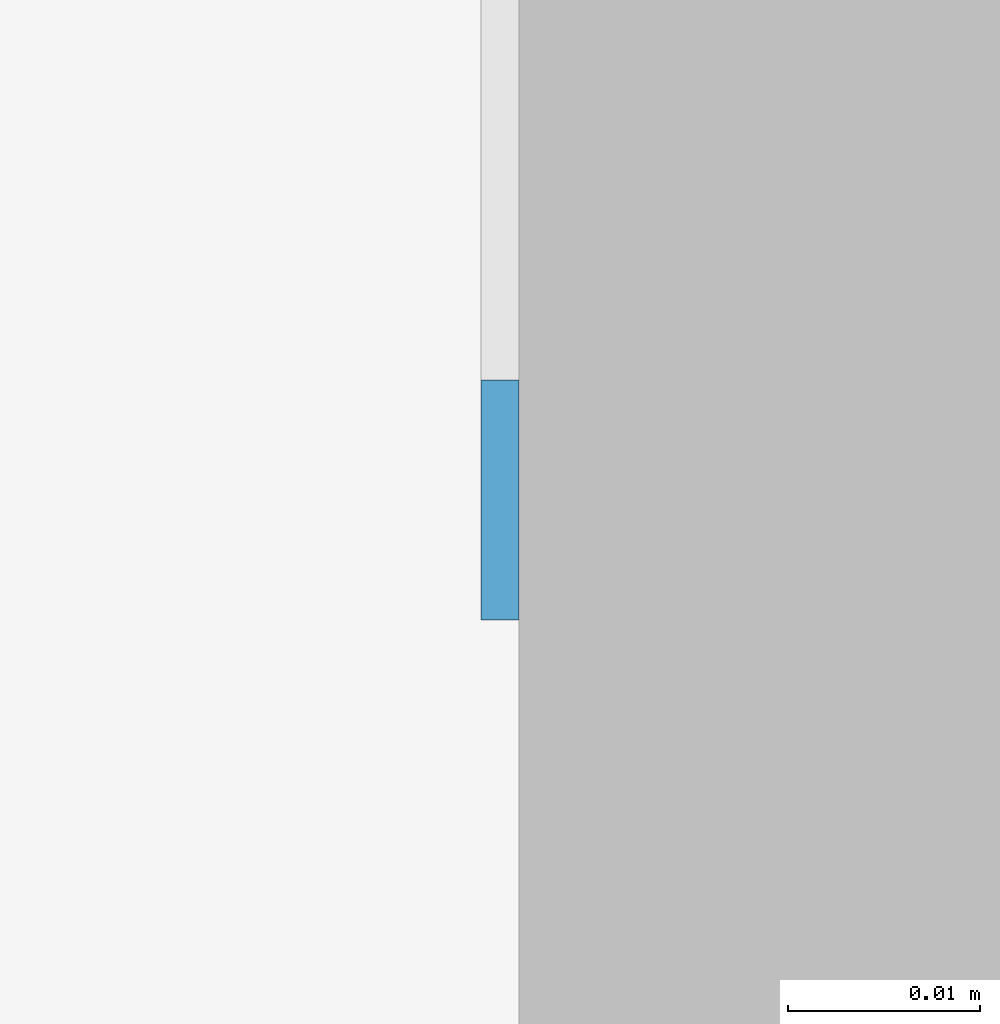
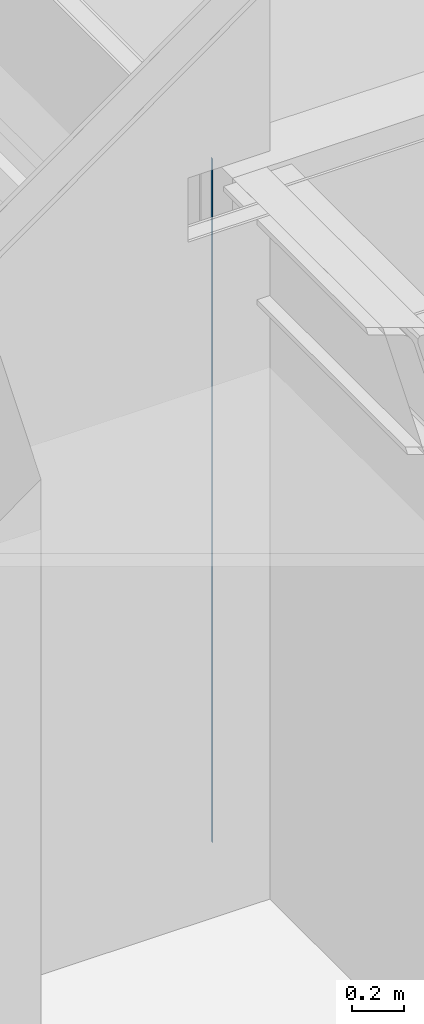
# One storey, part 82 of 117: 1 building element part, 1 element without a shape of its own.
"""IFC2X3 building model written with IfcOpenShell, lengths in millimetres."""

from ifc_helpers import new_model, entity, si_unit, converted_unit, derived_unit, money_unit, direction, frame, origin_with_axes, place, context, subcontext, project, spatial, faceted_brep, material, type_object, element, aggregate, save


model = new_model("IFC2X3")

# Units and contexts
model_context = context("Model", 3, precision=0.01, world=origin_with_axes(), true_north=direction((0.0, 1.0)))
body_context = subcontext(model_context, "Body", "Model", "MODEL_VIEW")
ifc_project = project(units=[si_unit("LENGTHUNIT", "METRE", prefix="MILLI"), si_unit("AREAUNIT", "SQUARE_METRE"), si_unit("VOLUMEUNIT", "CUBIC_METRE"), converted_unit("PLANEANGLEUNIT", "DEGREE", entity("IfcPlaneAngleMeasure", 0.0174532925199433), si_unit("PLANEANGLEUNIT", "RADIAN"), dimensions=[0, 0, 0, 0, 0, 0, 0]), money_unit("EUR"), converted_unit("TIMEUNIT", "Year", entity("IfcTimeMeasure", 31557600.0), si_unit("TIMEUNIT", "SECOND"), dimensions=[0, 0, 1, 0, 0, 0, 0]), si_unit("MASSUNIT", "GRAM", prefix="KILO"), si_unit("THERMODYNAMICTEMPERATUREUNIT", "DEGREE_CELSIUS"), si_unit("LUMINOUSINTENSITYUNIT", "LUMEN"), si_unit("ENERGYUNIT", "JOULE", prefix="MEGA"), derived_unit("THERMALCONDUCTANCEUNIT", [(si_unit("POWERUNIT", "WATT"), 1), (si_unit("LENGTHUNIT", "METRE"), -1), (si_unit("THERMODYNAMICTEMPERATUREUNIT", "KELVIN"), -1)]), derived_unit("SPECIFICHEATCAPACITYUNIT", [(si_unit("ENERGYUNIT", "JOULE"), 1), (si_unit("MASSUNIT", "GRAM", prefix="KILO"), -1), (si_unit("THERMODYNAMICTEMPERATUREUNIT", "KELVIN"), -1)]), derived_unit("MASSDENSITYUNIT", [(si_unit("MASSUNIT", "GRAM", prefix="KILO"), 1), (si_unit("VOLUMEUNIT", "CUBIC_METRE"), -1)])], contexts=[model_context])

# Site, building, storey
site_placement = place(None, origin_with_axes())
site = spatial("IfcSite", under=ifc_project, at=site_placement, Name="Site", CompositionType="ELEMENT")
building_placement = place(site_placement, origin_with_axes())
building = spatial("IfcBuilding", under=site, at=building_placement, Name="Naam gebouw", CompositionType="ELEMENT")
storey_placement = place(building_placement, frame((0.0, 0.0, 4150.0), z_axis=(0.0, 0.0, 1.0), x_axis=(1.0, 0.0, 0.0)))
storey = spatial("IfcBuildingStorey", under=building, at=storey_placement, Name="1e verdieping N", CompositionType="ELEMENT", Elevation=4150.0)

# Wall, building element part
wall_type = type_object("IfcWallType", Name="Metalstud iso 100 100", PredefinedType="NOTDEFINED")
wall_placement = place(storey_placement, frame((30456.99999999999, 18150.91242510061, -99.99999999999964), z_axis=(0.0, 0.0, 1.0), x_axis=(-1.0, 0.0, 0.0)))
wall = element("IfcWall", 1, at=wall_placement, inside=storey, type_object=wall_type, Name="_Wand-x")
ifc_material = material(Name="Gipsplaat")
building_element_part_placement = place(wall_placement, origin_with_axes())
building_element_part = element("IfcBuildingElementPart", 2, at=building_element_part_placement, material=ifc_material, Name="Gipsplaat", context=body_context, shape_type="Brep", body=[
    faceted_brep([(149.9999999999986, 100.0000000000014, 99.99999999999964), (149.9999999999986, 87.50000000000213, 99.99999999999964), (149.9999999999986, 87.50000000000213, 3300.0), (149.9999999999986, 100.0000000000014, 3300.0), (151.9999999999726, 87.49999999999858, 99.99999999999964), (151.9999999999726, 100.0000000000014, 99.99999999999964), (151.9999999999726, 87.49999999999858, 3300.0), (151.9999999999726, 100.0000000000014, 3300.0)], [[[0, 1, 2, 3]], [[4, 1, 0, 5]], [[1, 4, 6, 2]], [[3, 2, 6, 7]], [[5, 0, 3, 7]], [[4, 5, 7, 6]]]),
])
aggregate(wall, [building_element_part])

save(model, "model.ifc")
